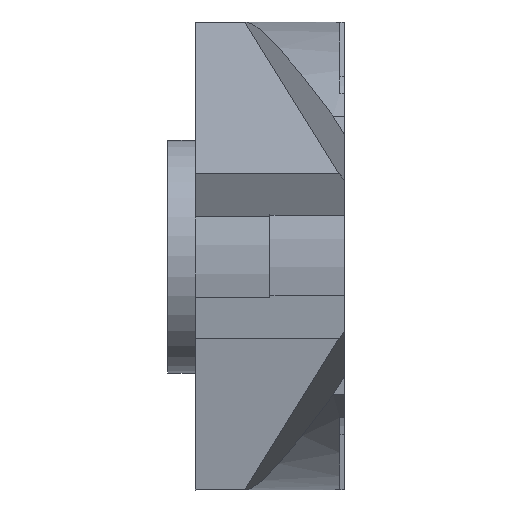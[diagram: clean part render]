
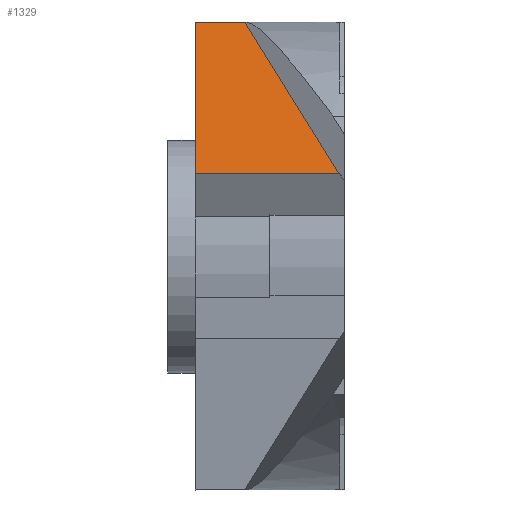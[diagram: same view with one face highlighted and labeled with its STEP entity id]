
A CAD part, top view. The second image highlights one B-rep face of the part: STEP entity #1329.
In plain terms, the highlighted planar face has unit normal (0, 0.171, 0.985).
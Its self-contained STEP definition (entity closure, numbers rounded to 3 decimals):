
#3 = CARTESIAN_POINT ( 'NONE',  ( -4., 3.934, 22.661 ) ) ;
#38 = ORIENTED_EDGE ( 'NONE', *, *, #2315, .F. ) ;
#122 = ORIENTED_EDGE ( 'NONE', *, *, #434, .T. ) ;
#205 = VECTOR ( 'NONE', #1630, 1000. ) ;
#376 = DIRECTION ( 'NONE',  ( 1., 0., 0. ) ) ;
#398 = VECTOR ( 'NONE', #376, 1000. ) ;
#405 = CARTESIAN_POINT ( 'NONE',  ( -4., 4.427, 22.575 ) ) ;
#423 = DIRECTION ( 'NONE',  ( 0., -0.985, 0.171 ) ) ;
#434 = EDGE_CURVE ( 'NONE', #1909, #1532, #904, .T. ) ;
#446 = ORIENTED_EDGE ( 'NONE', *, *, #1400, .F. ) ;
#455 = LINE ( 'NONE', #2238, #1831 ) ;
#474 = EDGE_CURVE ( 'NONE', #814, #1677, #2006, .T. ) ;
#720 = DIRECTION ( 'NONE',  ( 0., 0.171, 0.985 ) ) ;
#814 = VERTEX_POINT ( 'NONE', #1025 ) ;
#850 = AXIS2_PLACEMENT_3D ( 'NONE', #3, #720, #423 ) ;
#903 = FACE_OUTER_BOUND ( 'NONE', #1397, .T. ) ;
#904 = LINE ( 'NONE', #1274, #205 ) ;
#953 = ORIENTED_EDGE ( 'NONE', *, *, #474, .F. ) ;
#1025 = CARTESIAN_POINT ( 'NONE',  ( -4., 12.561, 21.163 ) ) ;
#1061 = CARTESIAN_POINT ( 'NONE',  ( -4., 12.561, 21.163 ) ) ;
#1185 = DIRECTION ( 'NONE',  ( 0., 0.985, -0.171 ) ) ;
#1274 = CARTESIAN_POINT ( 'NONE',  ( -4., 4.427, 22.575 ) ) ;
#1329 = ADVANCED_FACE ( 'NONE', ( #903 ), #1650, .T. ) ;
#1397 = EDGE_LOOP ( 'NONE', ( #38, #122, #446, #953 ) ) ;
#1400 = EDGE_CURVE ( 'NONE', #1677, #1532, #2199, .T. ) ;
#1496 = CARTESIAN_POINT ( 'NONE',  ( 3.694, 4.427, 22.575 ) ) ;
#1532 = VERTEX_POINT ( 'NONE', #1496 ) ;
#1630 = DIRECTION ( 'NONE',  ( 1., 0., 0. ) ) ;
#1650 = PLANE ( 'NONE',  #850 ) ;
#1677 = VERTEX_POINT ( 'NONE', #1802 ) ;
#1802 = CARTESIAN_POINT ( 'NONE',  ( -1.351, 12.561, 21.163 ) ) ;
#1831 = VECTOR ( 'NONE', #1185, 1000. ) ;
#1909 = VERTEX_POINT ( 'NONE', #405 ) ;
#2006 = LINE ( 'NONE', #1061, #398 ) ;
#2049 = DIRECTION ( 'NONE',  ( 0.521, -0.841, 0.146 ) ) ;
#2078 = VECTOR ( 'NONE', #2049, 1000. ) ;
#2199 = LINE ( 'NONE', #2208, #2078 ) ;
#2208 = CARTESIAN_POINT ( 'NONE',  ( 4., 3.934, 22.661 ) ) ;
#2238 = CARTESIAN_POINT ( 'NONE',  ( -4., 12.802, 21.122 ) ) ;
#2315 = EDGE_CURVE ( 'NONE', #1909, #814, #455, .T. ) ;
